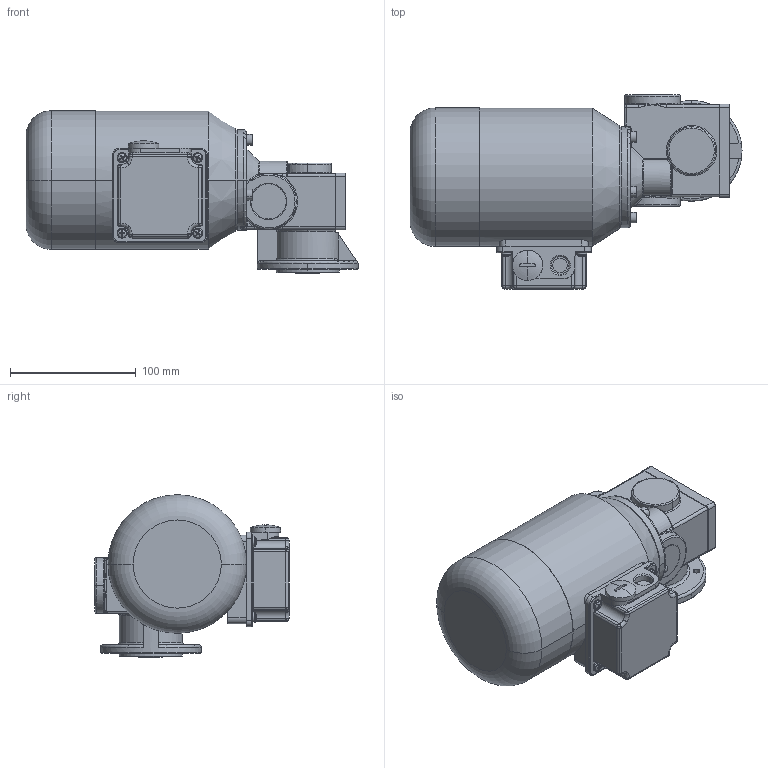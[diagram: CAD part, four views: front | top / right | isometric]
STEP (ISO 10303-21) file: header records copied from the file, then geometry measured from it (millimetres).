
FILE_DESCRIPTION (( 'STEP AP214' ), '1' );
FILE_NAME ('SN6FH_120W_2800Upm_Drehstrom-Motor_C.STEP', '2021-08-10T09:32:50', ( '' ), ( '' ), 'SwSTEP 2.0', 'SolidWorks 2019', '' );
FILE_SCHEMA (( 'AUTOMOTIVE_DESIGN' ));
Length unit declared in the file: millimetre
Products named in the file (10): SN6FH_3D-Export; 06FH-G-001_3D-Export; socket head cap screw_iso_ISO 4762 M3 x 10 - 10C; 06FH-W-001_3D-Export; K_28x4.0; 06-M-066 I 120W_2800Upm; 06F-D-003_3D-Export; socket head cap screw_iso_ISO 4762 M5 x 16 - 16C; NBR_WDR_20x37x7; SN6FH_120W_2800Upm_Drehstrom-Motor_C
Assembly tree (15 placements, depth 3):
  SN6FH_120W_2800Upm_Drehstrom-Motor_C
    SN6FH_3D-Export
      06FH-G-001_3D-Export
      06F-D-003_3D-Export
      06FH-W-001_3D-Export
      K_28x4.0  x2
      NBR_WDR_20x37x7
      socket head cap screw_iso_ISO 4762 M3 x 10 - 10C  x4
      socket head cap screw_iso_ISO 4762 M5 x 16 - 16C  x3
    06-M-066 I 120W_2800Upm
Bounding box: 263.5 x 154 x 129 mm (x, y, z)
Volume: 1963670.5 mm3; surface area: 180698.2 mm2
Topology: 15 solids, 15 shells, 925 faces, 2262 edges, 1361 vertices
Faces by surface type: cylinder 279, plane 241, torus 172, cone 151, bspline 54, sphere 28
Entity records: 27976 total; most frequent: CARTESIAN_POINT 8861, DIRECTION 4160, ORIENTED_EDGE 3824, EDGE_CURVE 1912, AXIS2_PLACEMENT_3D 1777, VERTEX_POINT 1188, CIRCLE 1029, EDGE_LOOP 850
